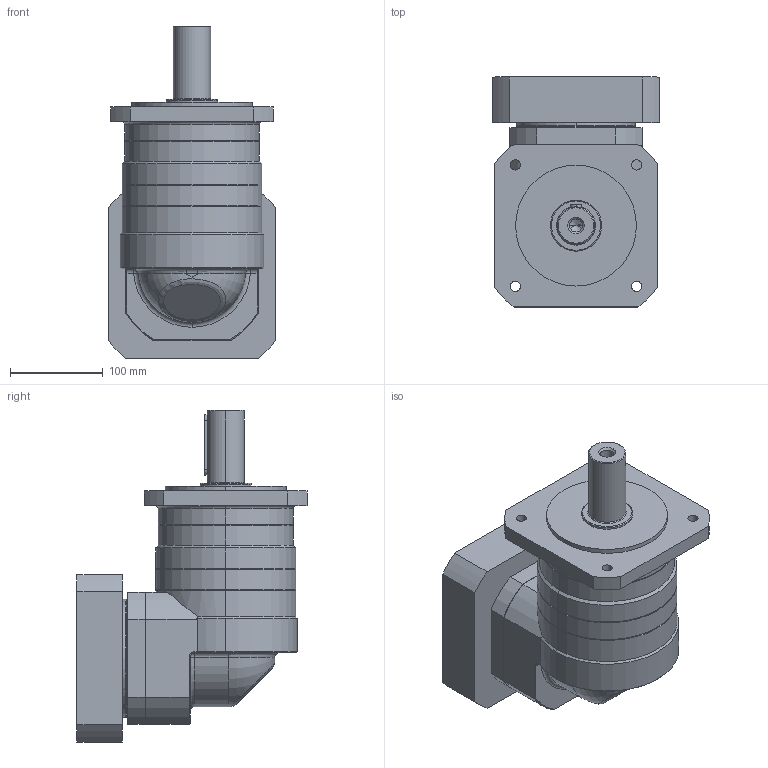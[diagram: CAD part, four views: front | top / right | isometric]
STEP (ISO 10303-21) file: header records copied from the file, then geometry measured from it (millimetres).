
FILE_DESCRIPTION (( 'STEP AP214' ), '1' );
FILE_NAME ('FBR160-L1-S2-P1 35-114.3-200-M12.STEP', '2025-02-17T01:19:46', ( '微软用户' ), ( '微软中国' ), 'SwSTEP 2.0', 'SolidWorks 2021', '' );
FILE_SCHEMA (( 'AUTOMOTIVE_DESIGN' ));
Length unit declared in the file: millimetre
Products named in the file (1): FBR160-L1-S2-P1 35-114.3-200-M12
Bounding box: 180 x 247.5 x 357 mm (x, y, z)
Volume: 6134240.3 mm3; surface area: 312812.3 mm2
Topology: 1 solids, 1 shells, 183 faces, 422 edges, 255 vertices
Faces by surface type: cylinder 73, plane 52, cone 42, torus 10, bspline 4, sphere 2
Entity records: 6324 total; most frequent: CARTESIAN_POINT 2040, DIRECTION 946, ORIENTED_EDGE 840, EDGE_CURVE 420, AXIS2_PLACEMENT_3D 379, VERTEX_POINT 255, EDGE_LOOP 207, CIRCLE 199
